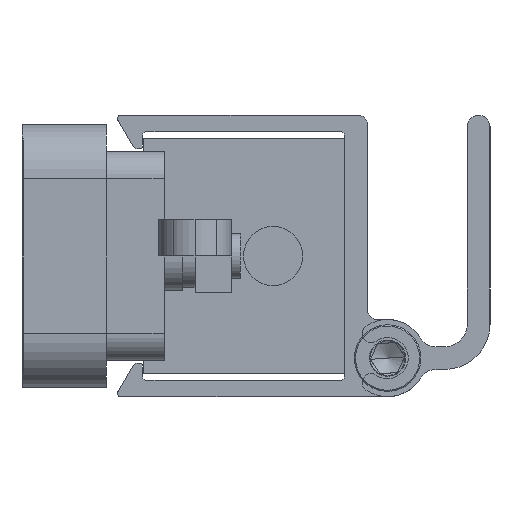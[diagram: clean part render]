
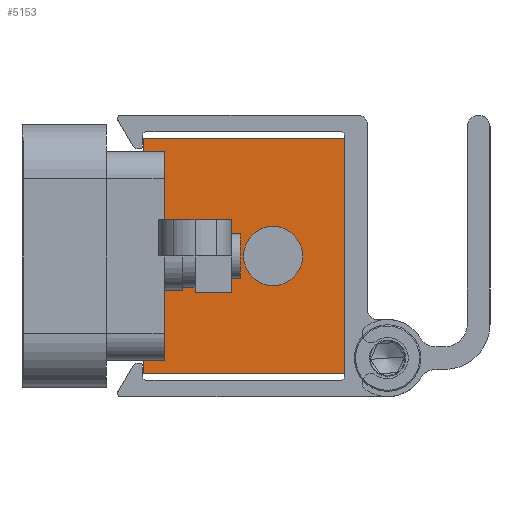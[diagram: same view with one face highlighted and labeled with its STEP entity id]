
A CAD part, left-side view. The second image highlights one B-rep face of the part: STEP entity #5153.
In plain terms, the highlighted planar face has unit normal (-1, 0, 0).
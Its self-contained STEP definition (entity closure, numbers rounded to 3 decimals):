
#197 = LINE ( 'NONE', #959, #8811 ) ;
#213 = EDGE_CURVE ( 'NONE', #1876, #8248, #7065, .T. ) ;
#263 = EDGE_CURVE ( 'NONE', #1308, #1706, #5659, .T. ) ;
#314 = CARTESIAN_POINT ( 'NONE',  ( -46., 19.9, 11.5 ) ) ;
#391 = ORIENTED_EDGE ( 'NONE', *, *, #3517, .T. ) ;
#445 = EDGE_CURVE ( 'NONE', #6023, #6743, #8729, .T. ) ;
#491 = VERTEX_POINT ( 'NONE', #8406 ) ;
#575 = ORIENTED_EDGE ( 'NONE', *, *, #2464, .T. ) ;
#720 = ORIENTED_EDGE ( 'NONE', *, *, #5295, .F. ) ;
#907 = EDGE_LOOP ( 'NONE', ( #3384, #391, #7929, #6835, #2770, #9229, #575, #5839, #720, #7642, #8689, #1536 ) ) ;
#959 = CARTESIAN_POINT ( 'NONE',  ( -46., 22.2, 13. ) ) ;
#962 = DIRECTION ( 'NONE',  ( 0., -1., 0. ) ) ;
#1053 = CARTESIAN_POINT ( 'NONE',  ( -46., 0., -13. ) ) ;
#1123 = VECTOR ( 'NONE', #4405, 1000. ) ;
#1162 = FACE_OUTER_BOUND ( 'NONE', #907, .T. ) ;
#1308 = VERTEX_POINT ( 'NONE', #1053 ) ;
#1536 = ORIENTED_EDGE ( 'NONE', *, *, #6903, .T. ) ;
#1650 = CARTESIAN_POINT ( 'NONE',  ( -46., 17.9, 3.75 ) ) ;
#1706 = VERTEX_POINT ( 'NONE', #5735 ) ;
#1748 = VECTOR ( 'NONE', #7107, 1000. ) ;
#1859 = VECTOR ( 'NONE', #5520, 1000. ) ;
#1876 = VERTEX_POINT ( 'NONE', #4012 ) ;
#2023 = CARTESIAN_POINT ( 'NONE',  ( -46., 19.9, 3.75 ) ) ;
#2464 = EDGE_CURVE ( 'NONE', #5058, #1308, #5194, .T. ) ;
#2471 = CARTESIAN_POINT ( 'NONE',  ( -46., 22.2, 11.5 ) ) ;
#2587 = CARTESIAN_POINT ( 'NONE',  ( -46., 22.2, 0. ) ) ;
#2727 = FACE_BOUND ( 'NONE', #3678, .T. ) ;
#2770 = ORIENTED_EDGE ( 'NONE', *, *, #5813, .T. ) ;
#2951 = VECTOR ( 'NONE', #7715, 1000. ) ;
#2990 = DIRECTION ( 'NONE',  ( 0., -1., 0. ) ) ;
#3077 = DIRECTION ( 'NONE',  ( 0., 0., -1. ) ) ;
#3191 = CARTESIAN_POINT ( 'NONE',  ( -46., 7.9, 0. ) ) ;
#3245 = VECTOR ( 'NONE', #8939, 1000. ) ;
#3307 = PLANE ( 'NONE',  #8386 ) ;
#3352 = DIRECTION ( 'NONE',  ( 0., 0., 1. ) ) ;
#3356 = LINE ( 'NONE', #2587, #8160 ) ;
#3384 = ORIENTED_EDGE ( 'NONE', *, *, #445, .F. ) ;
#3424 = LINE ( 'NONE', #6928, #1859 ) ;
#3517 = EDGE_CURVE ( 'NONE', #6023, #7616, #5942, .T. ) ;
#3605 = CARTESIAN_POINT ( 'NONE',  ( -46., 22.2, -13. ) ) ;
#3678 = EDGE_LOOP ( 'NONE', ( #5414 ) ) ;
#4012 = CARTESIAN_POINT ( 'NONE',  ( -46., 22.2, 13. ) ) ;
#4026 = DIRECTION ( 'NONE',  ( 0., 0., 1. ) ) ;
#4132 = VECTOR ( 'NONE', #3077, 1000. ) ;
#4405 = DIRECTION ( 'NONE',  ( 0., 1., 0. ) ) ;
#4642 = VECTOR ( 'NONE', #6079, 1000. ) ;
#4724 = EDGE_CURVE ( 'NONE', #5058, #6099, #3356, .T. ) ;
#4843 = EDGE_CURVE ( 'NONE', #5709, #5362, #6136, .T. ) ;
#4848 = CARTESIAN_POINT ( 'NONE',  ( -46., 22.2, -13. ) ) ;
#5058 = VERTEX_POINT ( 'NONE', #3605 ) ;
#5111 = CARTESIAN_POINT ( 'NONE',  ( -46., 22.2, -13. ) ) ;
#5153 = ADVANCED_FACE ( 'NONE', ( #2727, #1162 ), #3307, .T. ) ;
#5194 = LINE ( 'NONE', #5111, #8076 ) ;
#5257 = CARTESIAN_POINT ( 'NONE',  ( -46., 19.9, -11.5 ) ) ;
#5295 = EDGE_CURVE ( 'NONE', #1876, #1706, #197, .T. ) ;
#5362 = VERTEX_POINT ( 'NONE', #5257 ) ;
#5414 = ORIENTED_EDGE ( 'NONE', *, *, #7443, .F. ) ;
#5520 = DIRECTION ( 'NONE',  ( 0., -1., 0. ) ) ;
#5659 = LINE ( 'NONE', #8524, #2951 ) ;
#5705 = VECTOR ( 'NONE', #8650, 1000. ) ;
#5709 = VERTEX_POINT ( 'NONE', #6642 ) ;
#5735 = CARTESIAN_POINT ( 'NONE',  ( -46., 0., 13. ) ) ;
#5778 = AXIS2_PLACEMENT_3D ( 'NONE', #3191, #6653, #8897 ) ;
#5787 = CARTESIAN_POINT ( 'NONE',  ( -46., 19.9, -13. ) ) ;
#5813 = EDGE_CURVE ( 'NONE', #5362, #6099, #6216, .T. ) ;
#5839 = ORIENTED_EDGE ( 'NONE', *, *, #263, .T. ) ;
#5942 = LINE ( 'NONE', #6505, #4132 ) ;
#6023 = VERTEX_POINT ( 'NONE', #9171 ) ;
#6079 = DIRECTION ( 'NONE',  ( 0., 1., 0. ) ) ;
#6099 = VERTEX_POINT ( 'NONE', #7908 ) ;
#6136 = LINE ( 'NONE', #7637, #3245 ) ;
#6216 = LINE ( 'NONE', #9072, #4642 ) ;
#6505 = CARTESIAN_POINT ( 'NONE',  ( -46., 17.9, 0. ) ) ;
#6574 = EDGE_CURVE ( 'NONE', #5709, #7616, #8854, .T. ) ;
#6642 = CARTESIAN_POINT ( 'NONE',  ( -46., 19.9, -3.75 ) ) ;
#6653 = DIRECTION ( 'NONE',  ( -1., 0., 0. ) ) ;
#6704 = VERTEX_POINT ( 'NONE', #314 ) ;
#6743 = VERTEX_POINT ( 'NONE', #2023 ) ;
#6756 = VECTOR ( 'NONE', #962, 1000. ) ;
#6835 = ORIENTED_EDGE ( 'NONE', *, *, #4843, .T. ) ;
#6903 = EDGE_CURVE ( 'NONE', #6704, #6743, #7938, .T. ) ;
#6928 = CARTESIAN_POINT ( 'NONE',  ( -46., 22.2, 11.5 ) ) ;
#6950 = DIRECTION ( 'NONE',  ( -1., 0., 0. ) ) ;
#7065 = LINE ( 'NONE', #8380, #1748 ) ;
#7107 = DIRECTION ( 'NONE',  ( 0., 0., -1. ) ) ;
#7404 = CARTESIAN_POINT ( 'NONE',  ( -46., 17.9, -3.75 ) ) ;
#7443 = EDGE_CURVE ( 'NONE', #491, #491, #8320, .T. ) ;
#7616 = VERTEX_POINT ( 'NONE', #8921 ) ;
#7637 = CARTESIAN_POINT ( 'NONE',  ( -46., 19.9, -13. ) ) ;
#7642 = ORIENTED_EDGE ( 'NONE', *, *, #213, .T. ) ;
#7715 = DIRECTION ( 'NONE',  ( 0., 0., 1. ) ) ;
#7908 = CARTESIAN_POINT ( 'NONE',  ( -46., 22.2, -11.5 ) ) ;
#7929 = ORIENTED_EDGE ( 'NONE', *, *, #6574, .F. ) ;
#7938 = LINE ( 'NONE', #5787, #5705 ) ;
#8076 = VECTOR ( 'NONE', #2990, 1000. ) ;
#8160 = VECTOR ( 'NONE', #4026, 1000. ) ;
#8206 = DIRECTION ( 'NONE',  ( 0., -1., 0. ) ) ;
#8248 = VERTEX_POINT ( 'NONE', #2471 ) ;
#8320 = CIRCLE ( 'NONE', #5778, 3.25 ) ;
#8380 = CARTESIAN_POINT ( 'NONE',  ( -46., 22.2, -13. ) ) ;
#8386 = AXIS2_PLACEMENT_3D ( 'NONE', #4848, #6950, #3352 ) ;
#8406 = CARTESIAN_POINT ( 'NONE',  ( -46., 7.9, 3.25 ) ) ;
#8524 = CARTESIAN_POINT ( 'NONE',  ( -46., 0., 0. ) ) ;
#8650 = DIRECTION ( 'NONE',  ( 0., 0., -1. ) ) ;
#8689 = ORIENTED_EDGE ( 'NONE', *, *, #8835, .T. ) ;
#8729 = LINE ( 'NONE', #1650, #1123 ) ;
#8811 = VECTOR ( 'NONE', #8206, 1000. ) ;
#8835 = EDGE_CURVE ( 'NONE', #8248, #6704, #3424, .T. ) ;
#8854 = LINE ( 'NONE', #7404, #6756 ) ;
#8897 = DIRECTION ( 'NONE',  ( 0., 0., 1. ) ) ;
#8921 = CARTESIAN_POINT ( 'NONE',  ( -46., 17.9, -3.75 ) ) ;
#8939 = DIRECTION ( 'NONE',  ( 0., 0., -1. ) ) ;
#9072 = CARTESIAN_POINT ( 'NONE',  ( -46., 22.2, -11.5 ) ) ;
#9171 = CARTESIAN_POINT ( 'NONE',  ( -46., 17.9, 3.75 ) ) ;
#9229 = ORIENTED_EDGE ( 'NONE', *, *, #4724, .F. ) ;
